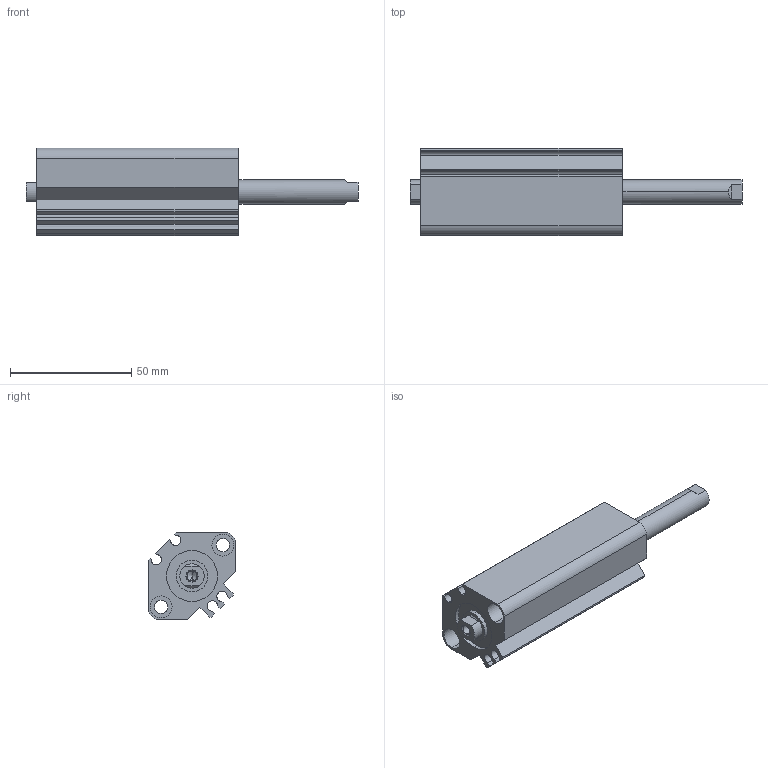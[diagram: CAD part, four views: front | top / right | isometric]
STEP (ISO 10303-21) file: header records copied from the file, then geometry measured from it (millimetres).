
FILE_DESCRIPTION (( 'STEP AP203' ), '1' );
FILE_NAME ('CCMB20-45F-P.STEP', '2020-08-05T11:07:42', ( '' ), ( '' ), 'SwSTEP 2.0', 'SolidWorks 2019', '' );
FILE_SCHEMA (( 'CONFIG_CONTROL_DESIGN' ));
Length unit declared in the file: millimetre
Products named in the file (1): CCMB20-45F-P
Bounding box: 137 x 36 x 36 mm (x, y, z)
Volume: 74023.7 mm3; surface area: 30295.2 mm2
Topology: 2 solids, 2 shells, 114 faces, 276 edges, 178 vertices
Faces by surface type: cylinder 52, plane 50, cone 12
Entity records: 3415 total; most frequent: DIRECTION 606, CARTESIAN_POINT 589, ORIENTED_EDGE 544, EDGE_CURVE 272, AXIS2_PLACEMENT_3D 227, VERTEX_POINT 178, LINE 152, VECTOR 152
